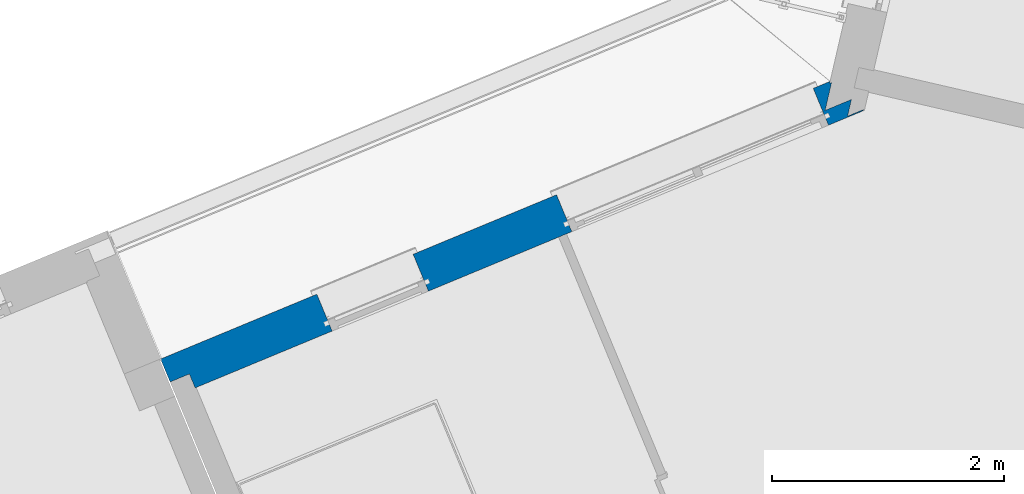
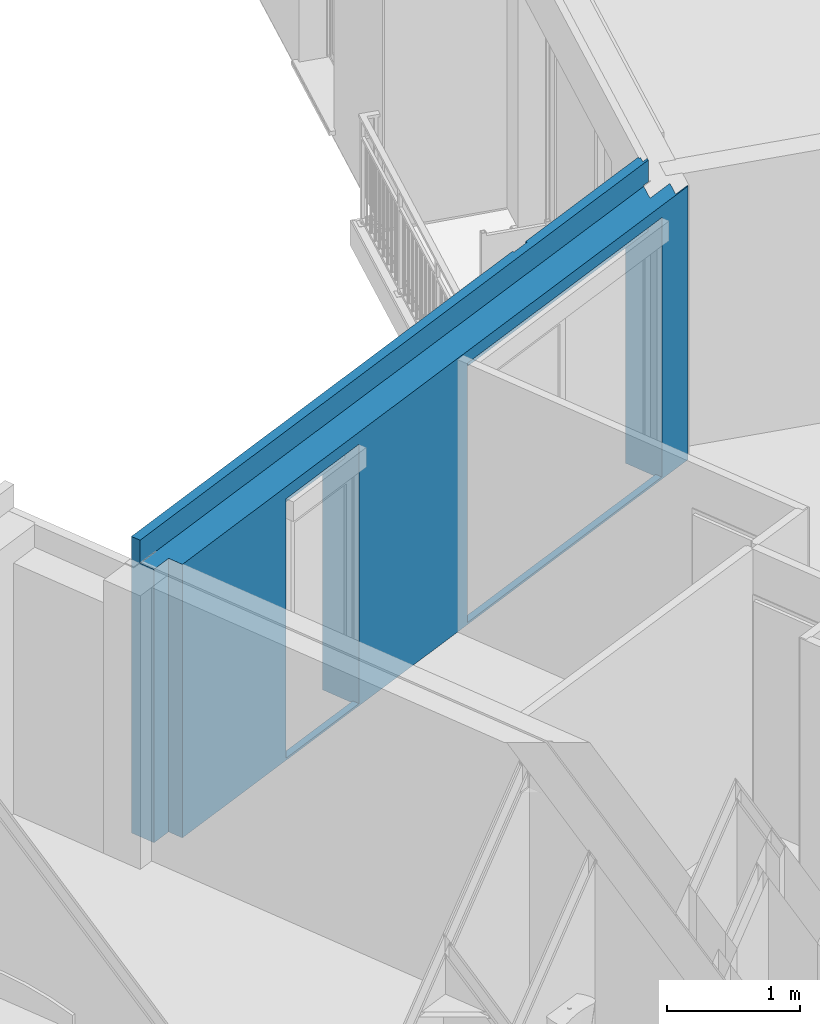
# One storey, part 9 of 91: 1 wall, 2 openings.
"""IFC2X3 building model written with IfcOpenShell, lengths in metres."""

from ifc_helpers import new_model, entity, si_unit, converted_unit, derived_unit, money_unit, direction, frame, origin_with_axes, place, context, subcontext, project, spatial, faceted_brep, material, material_list, type_object, element, save


model = new_model("IFC2X3")

# Units and contexts
model_context = context("Model", 3, precision=1e-05, world=origin_with_axes(), true_north=direction((0.0, 1.0)))
body_context = subcontext(model_context, "Body", "Model", "MODEL_VIEW")
ifc_project = project(units=[si_unit("LENGTHUNIT", "METRE"), si_unit("AREAUNIT", "SQUARE_METRE"), si_unit("VOLUMEUNIT", "CUBIC_METRE"), converted_unit("PLANEANGLEUNIT", "DEGREE", entity("IfcPlaneAngleMeasure", 0.0174532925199), si_unit("PLANEANGLEUNIT", "RADIAN"), dimensions=[0, 0, 0, 0, 0, 0, 0]), si_unit("SOLIDANGLEUNIT", "STERADIAN"), money_unit("EUR"), converted_unit("TIMEUNIT", "Year", entity("IfcTimeMeasure", 31556926.0), si_unit("TIMEUNIT", "SECOND"), dimensions=[0, 0, 1, 0, 0, 0, 0]), si_unit("MASSUNIT", "GRAM", prefix="KILO"), si_unit("THERMODYNAMICTEMPERATUREUNIT", "DEGREE_CELSIUS"), si_unit("LUMINOUSINTENSITYUNIT", "LUMEN"), si_unit("ENERGYUNIT", "JOULE", prefix="MEGA"), derived_unit("THERMALCONDUCTANCEUNIT", [(si_unit("POWERUNIT", "WATT"), 1), (si_unit("LENGTHUNIT", "METRE"), -1), (si_unit("THERMODYNAMICTEMPERATUREUNIT", "KELVIN"), -1)]), derived_unit("SPECIFICHEATCAPACITYUNIT", [(si_unit("ENERGYUNIT", "JOULE"), 1), (si_unit("MASSUNIT", "GRAM", prefix="KILO"), -1), (si_unit("THERMODYNAMICTEMPERATUREUNIT", "KELVIN"), -1)]), derived_unit("MASSDENSITYUNIT", [(si_unit("MASSUNIT", "GRAM", prefix="KILO"), 1), (si_unit("VOLUMEUNIT", "CUBIC_METRE"), -1)])], contexts=[model_context])

# Site, building, storey
site_placement = place(None, origin_with_axes())
site = spatial("IfcSite", under=ifc_project, at=site_placement, Name="Site", CompositionType="ELEMENT")
building_placement = place(site_placement, origin_with_axes())
building = spatial("IfcBuilding", under=site, at=building_placement, Name="Bâtiment", CompositionType="ELEMENT")
storey_placement = place(building_placement, frame((0.0, 0.0, 5.44), z_axis=(0.0, 0.0, 1.0), x_axis=(1.0, 0.0, 0.0)))
storey = spatial("IfcBuildingStorey", under=building, at=storey_placement, Name="R+2", CompositionType="ELEMENT", Elevation=5.44)

# Wall, openings
ifc_material_1 = material(Name="Finition int - Plaque de plâtre")
ifc_material_2 = material(Name="Isolation - Polystyrène extrudé")
ifc_material_3 = material(Name="Bloc ELITHERM")
ifc_material_4 = material(Name="Isolation - Polystyrène expansé")
ifc_material_5 = material(Name="Mortier")
ifc_material_6 = material(Name="Béton cellulaire")
ifc_material_7 = material(Name="Finition ext - Crépis")
ifc_material_list = material_list([ifc_material_1, ifc_material_2, ifc_material_3, ifc_material_4, ifc_material_5, ifc_material_6, ifc_material_7])
wall_type = type_object("IfcWallType", Name="Mur ALKERN + planelle 21 345 x 2720", PredefinedType="USERDEFINED")
wall_placement = place(storey_placement, frame((-19.7780456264, -12.7581307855, 0.0), z_axis=(0.0, 0.0, 1.0), x_axis=(-0.923701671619, -0.383112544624, 0.0)))
wall = element("IfcWall", 1, at=wall_placement, inside=storey, type_object=wall_type, material=ifc_material_list, Name="Mue bloc ALKERN isolé", ObjectType="SOLIDWALL", context=body_context, shape_type="Brep", body=[
    faceted_brep([(-0.165315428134, 0.34499998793, 2.51), (6.08230080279, 0.34499998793, 2.50999999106), (6.08230080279, 0.34499998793, 0.0), (-0.165315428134, 0.34499998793, 0.0), (2.55854389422, 0.34499998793, 2.22), (2.55854389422, 0.34499998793, 2.4), (0.158543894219, 0.34499998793, 2.4), (0.158543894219, 0.34499998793, 2.22), (0.158543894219, 0.34499998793, 0.02), (2.55854389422, 0.34499998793, 0.02), (4.80037476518, 0.34499998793, 2.22), (4.80037476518, 0.34499998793, 2.4), (3.90037476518, 0.34499998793, 2.4), (3.90037476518, 0.34499998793, 2.22), (3.90037476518, 0.34499998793, 0.02), (4.80037476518, 0.34499998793, 0.02), (-0.172454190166, 0.335000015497, 2.51), (6.08230080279, 0.335000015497, 2.50999999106), (6.08230080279, 0.335000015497, 0.0), (-0.172454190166, 0.335000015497, 0.0), (2.55854389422, 0.335000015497, 2.22), (2.55854389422, 0.335000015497, 2.4), (0.158543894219, 0.335000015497, 2.4), (0.158543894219, 0.335000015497, 2.22), (0.158543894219, 0.335000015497, 0.02), (2.55854389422, 0.335000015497, 0.02), (4.80037476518, 0.335000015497, 2.22), (4.80037476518, 0.335000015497, 2.4), (3.90037476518, 0.335000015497, 2.4), (3.90037476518, 0.335000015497, 2.22), (3.90037476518, 0.335000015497, 0.02), (4.80037476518, 0.335000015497, 0.02)], [[[0, 1, 2, 3], [4, 5, 6, 7, 8, 9], [10, 11, 12, 13, 14, 15]], [[16, 17, 1, 0]], [[18, 2, 1, 17]], [[3, 2, 18, 19]], [[3, 19, 16, 0]], [[20, 21, 5, 4]], [[21, 22, 6, 5]], [[22, 23, 7, 6]], [[24, 8, 7, 23]], [[25, 9, 8, 24]], [[9, 25, 20, 4]], [[11, 10, 26, 27]], [[12, 11, 27, 28]], [[13, 12, 28, 29]], [[13, 29, 30, 14]], [[14, 30, 31, 15]], [[26, 10, 15, 31]], [[19, 18, 17, 16], [21, 20, 25, 24, 23, 22], [27, 26, 31, 30, 29, 28]]]),
    faceted_brep([(3.90037476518, 0.245, 0.02), (3.90037476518, 0.286, 0.02), (3.90037476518, 0.335000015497, 0.02), (3.90037476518, 0.335000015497, 2.22), (3.90037476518, 0.245, 2.22), (3.90037476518, 0.215000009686, 0.02), (3.90037476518, 0.215000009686, 0.0), (3.90037476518, 0.286, 0.0), (4.80037476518, 0.286, 0.02), (4.80037476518, 0.335000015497, 0.02), (-0.0250141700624, 0.335000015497, 2.51), (6.08230080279, 0.335000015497, 2.50999999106), (6.08230080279, 0.335000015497, 0.0), (-0.0250141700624, 0.335000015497, 0.0), (0.158543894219, 0.335000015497, 2.22), (0.158543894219, 0.335000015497, 0.02), (2.55854389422, 0.335000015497, 0.02), (2.55854389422, 0.335000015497, 2.22), (2.55854389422, 0.335000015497, 2.4), (0.158543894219, 0.335000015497, 2.4), (4.80037476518, 0.335000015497, 2.22), (4.80037476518, 0.335000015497, 2.4), (3.90037476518, 0.335000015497, 2.4), (3.90037476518, 0.215, 2.4), (3.90037476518, 0.215, 2.22), (4.80037476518, 0.215, 2.4), (4.80037476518, 0.215, 2.22), (4.80037476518, 0.215000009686, 0.02), (4.80037476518, 0.215000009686, 0.0), (6.08230080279, 0.215000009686, 0.0), (6.08230080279, 0.215000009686, 2.50999999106), (-0.110679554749, 0.215000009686, 2.51), (-0.110679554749, 0.215000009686, 0.0), (0.158543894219, 0.215000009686, 0.0), (0.158543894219, 0.215000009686, 0.02), (0.158543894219, 0.215, 2.22), (0.158543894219, 0.215, 2.4), (2.55854389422, 0.215, 2.4), (2.55854389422, 0.215, 2.22), (2.55854389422, 0.215000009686, 0.02), (2.55854389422, 0.215000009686, 0.0), (2.55854389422, 0.286, 0.0), (0.158543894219, 0.286, 0.0), (4.80037476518, 0.286, 0.0), (4.80037476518, 0.245, 0.02), (4.80037476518, 0.245, 2.22), (0.158543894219, 0.245, 2.22), (0.158543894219, 0.245, 0.02), (0.158543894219, 0.286, 0.02), (2.55854389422, 0.286, 0.02), (2.55854389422, 0.245, 0.02), (2.55854389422, 0.245, 2.22)], [[[0, 1, 2, 3, 4]], [[1, 0, 5, 6, 7]], [[1, 8, 9, 2]], [[10, 11, 12, 13], [14, 15, 16, 17, 18, 19], [3, 2, 9, 20, 21, 22]], [[23, 24, 4, 3, 22]], [[5, 0, 4, 24]], [[6, 5, 24, 23, 25, 26, 27, 28, 29, 30, 31, 32, 33, 34, 35, 36, 37, 38, 39, 40]], [[7, 6, 40, 41, 42, 33, 32, 13, 12, 29, 28, 43]], [[8, 1, 7, 43]], [[8, 44, 45, 20, 9]], [[31, 30, 11, 10]], [[29, 12, 11, 30]], [[13, 32, 31, 10]], [[14, 46, 47, 48, 15]], [[48, 49, 16, 15]], [[17, 16, 49, 50, 51]], [[18, 17, 51, 38, 37]], [[18, 37, 36, 19]], [[14, 19, 36, 35, 46]], [[45, 26, 25, 21, 20]], [[21, 25, 23, 22]], [[44, 27, 26, 45]], [[44, 8, 43, 28, 27]], [[33, 42, 48, 47, 34]], [[34, 47, 46, 35]], [[50, 39, 38, 51]], [[40, 39, 50, 49, 41]], [[49, 48, 42, 41]]]),
    faceted_brep([(3.90037476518, 0.214999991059, 0.02), (3.90037476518, 0.214999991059, 0.0), (2.55854389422, 0.214999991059, 0.0), (2.55854389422, 0.214999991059, 0.02), (2.55854389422, 0.214999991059, 2.22), (0.158543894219, 0.214999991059, 2.22), (0.158543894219, 0.214999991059, 0.02), (0.158543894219, 0.214999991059, 0.0), (0.135053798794, 0.214999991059, 0.0), (0.135053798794, 0.214999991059, 2.50999999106), (6.26230080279, 0.214999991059, 2.50999999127), (6.26230080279, 0.214999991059, 0.0), (4.80037476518, 0.214999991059, 0.0), (4.80037476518, 0.214999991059, 0.02), (4.80037476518, 0.214999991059, 2.22), (3.90037476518, 0.214999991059, 2.22), (3.90037476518, 0.015, 0.02), (3.90037476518, 0.015, 0.0), (2.55854389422, 0.015, 0.0), (2.55854389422, 0.015, 0.02), (2.55854389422, 0.015, 2.22), (0.158543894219, 0.015, 2.22), (0.158543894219, 0.015, 0.02), (0.158543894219, 0.015, 0.0), (-0.00772182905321, 0.015, 0.0), (-0.00772182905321, 0.015, 2.50999999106), (0.0408218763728, 0.0829999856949, 2.50999999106), (6.2623008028, 0.0829999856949, 2.50999999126), (6.2623008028, 0.015, 2.50999999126), (6.2623008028, 0.015, 0.0), (4.80037476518, 0.015, 0.0), (4.80037476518, 0.015, 0.02), (4.80037476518, 0.015, 2.22), (3.90037476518, 0.015, 2.22)], [[[0, 1, 2, 3, 4, 5, 6, 7, 8, 9, 10, 11, 12, 13, 14, 15]], [[1, 0, 16, 17]], [[1, 17, 18, 2]], [[2, 18, 19, 3]], [[20, 4, 3, 19]], [[21, 5, 4, 20]], [[5, 21, 22, 6]], [[22, 23, 7, 6]], [[24, 8, 7, 23]], [[9, 8, 24, 25, 26]], [[9, 26, 27, 10]], [[27, 28, 29, 11, 10]], [[30, 12, 11, 29]], [[31, 13, 12, 30]], [[13, 31, 32, 14]], [[14, 32, 33, 15]], [[16, 0, 15, 33]], [[17, 16, 33, 32, 31, 30, 29, 28, 25, 24, 23, 22, 21, 20, 19, 18]], [[26, 25, 28, 27]]]),
    faceted_brep([(-0.015792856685, 0.0829999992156, 2.72), (-0.0300704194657, 0.0630000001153, 2.72), (6.2623008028, 0.0630000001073, 2.72000000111), (6.2623008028, 0.0829999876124, 2.72000000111), (-0.0300704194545, 0.0630000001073, 2.51999999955), (-0.0157928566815, 0.0829999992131, 2.51999999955), (6.2623008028, 0.0630000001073, 2.51999998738), (6.2623008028, 0.0829999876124, 2.51999998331)], [[[0, 1, 2, 3]], [[4, 1, 0, 5]], [[1, 4, 6, 2]], [[2, 6, 7, 3]], [[5, 0, 3, 7]], [[4, 5, 7, 6]]]),
    faceted_brep([(0.0408218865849, 0.083, 2.52), (-0.00772182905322, 0.015, 2.52), (6.2623008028, 0.015, 2.52), (6.2623008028, 0.083, 2.52), (-0.00772182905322, 0.015, 2.51), (0.0408218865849, 0.083, 2.51), (6.2623008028, 0.015, 2.51000000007), (6.2623008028, 0.083, 2.51000000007)], [[[0, 1, 2, 3]], [[4, 1, 0, 5]], [[1, 4, 6, 2]], [[6, 7, 3, 2]], [[5, 0, 3, 7]], [[4, 5, 7, 6]]]),
    faceted_brep([(0.0265443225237, 0.0629999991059, 2.72), (-0.00772182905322, 0.015, 2.72), (6.2623008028, 0.015, 2.72000000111), (6.2623008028, 0.0629999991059, 2.72000000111), (-0.00772182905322, 0.015, 2.51999999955), (0.0265443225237, 0.0629999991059, 2.51999999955), (6.2623008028, 0.015, 2.51999999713), (6.2623008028, 0.0629999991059, 2.51999998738)], [[[0, 1, 2, 3]], [[4, 1, 0, 5]], [[1, 4, 6, 2]], [[6, 7, 3, 2]], [[5, 0, 3, 7]], [[4, 5, 7, 6]]]),
    faceted_brep([(3.90037476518, 0.0149999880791, 0.02), (3.90037476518, 0.0149999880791, 0.0), (2.55854389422, 0.0149999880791, 0.0), (2.55854389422, 0.0149999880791, 0.02), (2.55854389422, 0.0149999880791, 2.22), (0.158543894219, 0.0149999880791, 2.22), (0.158543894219, 0.0149999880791, 0.02), (0.158543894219, 0.0149999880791, 0.0), (0.0107081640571, 0.0149999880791, 0.0), (0.0107081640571, 0.0149999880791, 2.50999999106), (0.0107081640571, 0.0149999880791, 2.51999999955), (0.0107081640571, 0.0149999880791, 2.72), (1.39386813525, 0.014999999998, 2.72), (1.39386813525, 0.014999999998, 2.51999999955), (1.39386813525, 0.014999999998, 2.50999999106), (1.39386813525, 0.014999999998, 2.50872065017), (1.39386813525, 0.014999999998, 2.5), (1.40886813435, 0.0150000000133, 2.5), (1.42860911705, 0.0150000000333, 2.5), (1.55386813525, 0.0150000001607, 2.5), (1.55386813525, 0.0150000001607, 2.50872065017), (1.55386813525, 0.0150000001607, 2.50999999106), (1.55386813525, 0.0150000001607, 2.51999999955), (1.55386813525, 0.0150000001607, 2.72), (6.2623008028, 0.0149999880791, 2.72000000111), (6.2623008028, 0.0149999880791, 2.52), (6.2623008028, 0.0149999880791, 0.0), (4.80037476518, 0.0149999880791, 0.0), (4.80037476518, 0.0149999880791, 0.02), (4.80037476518, 0.0149999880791, 2.22), (3.90037476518, 0.0149999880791, 2.22), (3.90037476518, 0.0, 0.02), (3.90037476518, 0.0, 0.0), (2.55854389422, 0.0, 0.0), (2.55854389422, 0.0, 0.02), (2.55854389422, 0.0, 2.22), (0.158543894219, 0.0, 2.22), (0.158543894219, 0.0, 0.02), (0.158543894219, 0.0, 0.0), (0.0, 0.0, 0.0), (0.0, 0.0, 2.50999999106), (0.0, 0.0, 2.51999999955), (0.0, 0.0, 2.72), (1.39386813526, 1.31866961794e-10, 2.72), (1.39386813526, 0.0, 2.51999999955), (1.39386813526, 0.0, 2.50999999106), (1.39386813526, 0.0, 2.50872065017), (1.39386813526, 0.0, 2.5), (1.40886813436, 0.0, 2.5), (1.42860911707, 0.0, 2.5), (1.55386813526, 0.0, 2.5), (1.55386813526, 0.0, 2.50872065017), (1.55386813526, 0.0, 2.50999999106), (1.55386813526, 0.0, 2.51999999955), (1.55386813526, 1.42867939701e-10, 2.72), (6.2623008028, 4.66623184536e-10, 2.72000000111), (6.2623008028, 4.66621408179e-10, 2.52), (6.2623008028, 0.0, 0.0), (4.80037476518, 0.0, 0.0), (4.80037476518, 0.0, 0.02), (4.80037476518, 0.0, 2.22), (3.90037476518, 0.0, 2.22)], [[[0, 1, 2, 3, 4, 5, 6, 7, 8, 9, 10, 11, 12, 13, 14, 15, 16, 17, 18, 19, 20, 21, 22, 23, 24, 25, 26, 27, 28, 29, 30]], [[1, 0, 31, 32]], [[1, 32, 33, 2]], [[2, 33, 34, 3]], [[35, 4, 3, 34]], [[36, 5, 4, 35]], [[5, 36, 37, 6]], [[37, 38, 7, 6]], [[39, 8, 7, 38]], [[39, 40, 9, 8]], [[40, 41, 10, 9]], [[10, 41, 42, 11]], [[42, 43, 12, 11]], [[44, 13, 12, 43]], [[14, 13, 44, 45]], [[15, 14, 45, 46]], [[16, 15, 46, 47]], [[47, 48, 17, 16]], [[48, 49, 18, 17]], [[50, 19, 18, 49]], [[50, 51, 20, 19]], [[51, 52, 21, 20]], [[52, 53, 22, 21]], [[53, 54, 23, 22]], [[24, 23, 54, 55]], [[24, 55, 56, 25]], [[56, 57, 26, 25]], [[58, 27, 26, 57]], [[59, 28, 27, 58]], [[28, 59, 60, 29]], [[29, 60, 61, 30]], [[31, 0, 30, 61]], [[32, 31, 61, 60, 59, 58, 57, 56, 55, 54, 53, 52, 51, 50, 49, 48, 47, 46, 45, 44, 43, 42, 41, 40, 39, 38, 37, 36, 35, 34, 33]]]),
])
opening_1_placement = place(wall_placement, frame((1.35854389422, 0.0, 0.02), z_axis=(0.0, 0.0, 1.0), x_axis=(1.0, 0.0, 0.0)))
element("IfcOpeningElement", 2, at=opening_1_placement, cuts=wall, Name="MEN 81", context=body_context, shape_type="Brep", body=[
    faceted_brep([(-1.2, 0.83499998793, 0.0), (1.2, 0.83499998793, 0.0), (1.2, 0.245, 0.0), (-1.2, 0.245, 0.0), (-1.2, 0.83499998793, 2.2), (1.2, 0.83499998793, 2.2), (1.2, 0.245, 2.2), (-1.2, 0.245, 2.2)], [[[0, 1, 2, 3]], [[0, 4, 5, 1]], [[1, 5, 6, 2]], [[3, 2, 6, 7]], [[4, 0, 3, 7]], [[5, 4, 7, 6]]]),
    faceted_brep([(-1.2, -0.34499998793, 0.0), (-1.2, -0.34499998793, 2.2), (-1.2, 0.245, 2.2), (-1.2, 0.245, 0.0), (1.2, -0.34499998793, 0.0), (1.2, -0.34499998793, 2.2), (1.2, 0.245, 2.2), (1.2, 0.245, 0.0)], [[[0, 1, 2, 3]], [[0, 4, 5, 1]], [[1, 5, 6, 2]], [[3, 2, 6, 7]], [[4, 0, 3, 7]], [[5, 4, 7, 6]]]),
    faceted_brep([(-1.2, -0.34499998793, 0.0), (-1.2, -0.34499998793, 2.2), (-1.2, 0.245, 2.2), (-1.2, 0.245, 0.0), (1.2, -0.34499998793, 0.0), (1.2, -0.34499998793, 2.2), (1.2, 0.245, 2.2), (1.2, 0.245, 0.0)], [[[0, 1, 2, 3]], [[0, 4, 5, 1]], [[1, 5, 6, 2]], [[3, 2, 6, 7]], [[4, 0, 3, 7]], [[5, 4, 7, 6]]]),
    faceted_brep([(-1.2, 0.80499998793, 2.2), (1.2, 0.80499998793, 2.2), (1.2, 0.215, 2.2), (-1.2, 0.215, 2.2), (-1.2, 0.80499998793, 2.38), (1.2, 0.80499998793, 2.38), (1.2, 0.215, 2.38), (-1.2, 0.215, 2.38)], [[[0, 1, 2, 3]], [[0, 4, 5, 1]], [[1, 5, 6, 2]], [[3, 2, 6, 7]], [[4, 0, 3, 7]], [[5, 4, 7, 6]]]),
    faceted_brep([(-1.2, -0.30399998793, 0.0), (1.2, -0.30399998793, 0.0), (1.2, 0.286, 0.0), (-1.2, 0.286, 0.0), (-1.2, -0.30399998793, -0.06), (1.2, -0.30399998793, -0.06), (1.2, 0.286, -0.06), (-1.2, 0.286, -0.06)], [[[0, 1, 2, 3]], [[0, 4, 5, 1]], [[1, 5, 6, 2]], [[3, 2, 6, 7]], [[4, 0, 3, 7]], [[5, 4, 7, 6]]]),
])
opening_2_placement = place(wall_placement, frame((4.35037476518, 0.0, 0.02), z_axis=(0.0, 0.0, 1.0), x_axis=(1.0, 0.0, 0.0)))
element("IfcOpeningElement", 3, at=opening_2_placement, cuts=wall, Name="MEN 82", context=body_context, shape_type="Brep", body=[
    faceted_brep([(0.45, 0.83499998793, 0.0), (0.45, 0.83499998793, 2.2), (0.45, 0.245, 2.2), (0.45, 0.245, 0.0), (-0.45, 0.83499998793, 0.0), (-0.45, 0.83499998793, 2.2), (-0.45, 0.245, 2.2), (-0.45, 0.245, 0.0)], [[[0, 1, 2, 3]], [[0, 4, 5, 1]], [[1, 5, 6, 2]], [[3, 2, 6, 7]], [[4, 0, 3, 7]], [[5, 4, 7, 6]]]),
    faceted_brep([(0.45, -0.34499998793, 0.0), (-0.45, -0.34499998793, 0.0), (-0.45, 0.245, 0.0), (0.45, 0.245, 0.0), (0.45, -0.34499998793, 2.2), (-0.45, -0.34499998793, 2.2), (-0.45, 0.245, 2.2), (0.45, 0.245, 2.2)], [[[0, 1, 2, 3]], [[0, 4, 5, 1]], [[1, 5, 6, 2]], [[3, 2, 6, 7]], [[4, 0, 3, 7]], [[5, 4, 7, 6]]]),
    faceted_brep([(0.45, -0.34499998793, 0.0), (-0.45, -0.34499998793, 0.0), (-0.45, 0.245, 0.0), (0.45, 0.245, 0.0), (0.45, -0.34499998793, 2.2), (-0.45, -0.34499998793, 2.2), (-0.45, 0.245, 2.2), (0.45, 0.245, 2.2)], [[[0, 1, 2, 3]], [[0, 4, 5, 1]], [[1, 5, 6, 2]], [[3, 2, 6, 7]], [[4, 0, 3, 7]], [[5, 4, 7, 6]]]),
    faceted_brep([(0.45, 0.80499998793, 2.2), (0.45, 0.80499998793, 2.38), (0.45, 0.215, 2.38), (0.45, 0.215, 2.2), (-0.45, 0.80499998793, 2.2), (-0.45, 0.80499998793, 2.38), (-0.45, 0.215, 2.38), (-0.45, 0.215, 2.2)], [[[0, 1, 2, 3]], [[0, 4, 5, 1]], [[1, 5, 6, 2]], [[3, 2, 6, 7]], [[4, 0, 3, 7]], [[5, 4, 7, 6]]]),
    faceted_brep([(0.45, -0.30399998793, 0.0), (0.45, -0.30399998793, -0.06), (0.45, 0.286, -0.06), (0.45, 0.286, 0.0), (-0.45, -0.30399998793, 0.0), (-0.45, -0.30399998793, -0.06), (-0.45, 0.286, -0.06), (-0.45, 0.286, 0.0)], [[[0, 1, 2, 3]], [[0, 4, 5, 1]], [[1, 5, 6, 2]], [[3, 2, 6, 7]], [[4, 0, 3, 7]], [[5, 4, 7, 6]]]),
])

save(model, "model.ifc")
